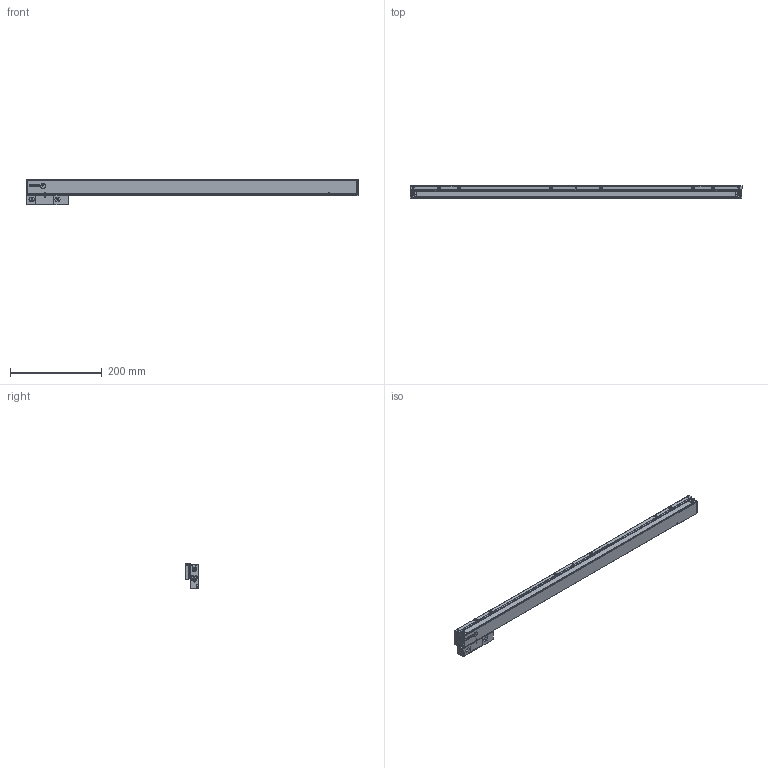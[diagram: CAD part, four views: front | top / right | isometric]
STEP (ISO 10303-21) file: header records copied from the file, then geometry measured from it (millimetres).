
FILE_DESCRIPTION(('Creo Elements/Direct Modeling STEP Export'),'2;1');
FILE_NAME('Regla SV2-620-T.stp','2015-07-07T11:48:24',(''),(''),'Creo Elements/Direct Modeling STEP processor for AP214 (Solid Model)','Creo Elements/Direct Modeling 18.1G 27-Feb-2015 (C) Parametric Technology GmbH','');
FILE_SCHEMA(('AUTOMOTIVE_DESIGN { 1 0 10303 214 1 1 1 1 }'));
Products named in the file (4): SOPORTE_SV2-T; CABEZA_ROSCADA_REGLA_SV2-T; REGLA_SV2-620-T
Assembly tree (3 placements, depth 2):
  REGLA_SV2-620-T
    REGLA_SV2-620-T
    CABEZA_ROSCADA_REGLA_SV2-T
    SOPORTE_SV2-T
Bounding box: 725 x 28 x 56.2 mm (x, y, z)
Volume: 405872.2 mm3; surface area: 217242 mm2
Topology: 2 solids, 11 shells, 2301 faces, 6424 edges, 4181 vertices
Faces by surface type: plane 1027, cylinder 902, cone 208, bspline 114, torus 42, sphere 8
Entity records: 97883 total; most frequent: CARTESIAN_POINT 30614, ORIENTED_EDGE 12828, DIRECTION 10631, EDGE_CURVE 6398, VERTEX_POINT 4181, AXIS2_PLACEMENT_3D 3627, VECTOR 3377, LINE 3377
